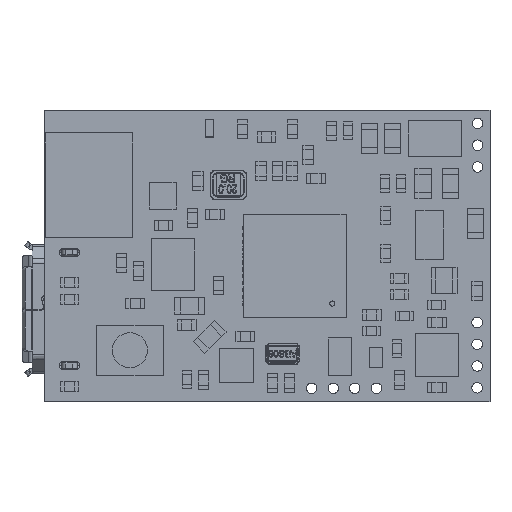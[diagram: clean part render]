
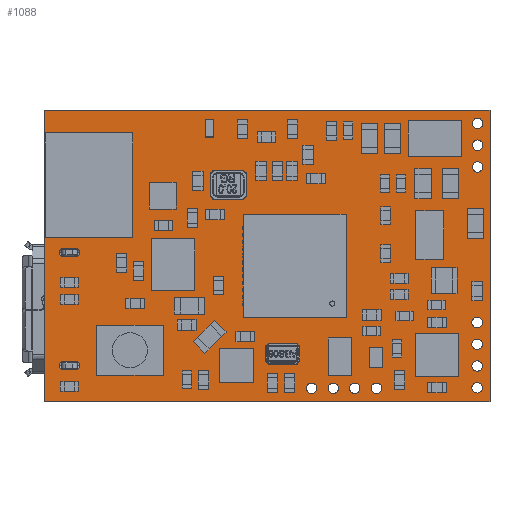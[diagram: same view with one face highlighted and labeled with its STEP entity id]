
A CAD part, top view. The second image highlights one B-rep face of the part: STEP entity #1088.
In plain terms, the highlighted planar face has unit normal (0, 0, 1).
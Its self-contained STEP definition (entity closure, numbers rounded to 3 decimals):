
#295 = VERTEX_POINT('',#296);
#296 = CARTESIAN_POINT('',(0.,0.,0.508));
#302 = EDGE_CURVE('',#295,#303,#305,.T.);
#303 = VERTEX_POINT('',#304);
#304 = CARTESIAN_POINT('',(26.,0.,0.508));
#305 = LINE('',#306,#307);
#306 = CARTESIAN_POINT('',(0.,0.,0.508));
#307 = VECTOR('',#308,1.);
#308 = DIRECTION('',(1.,0.,0.));
#333 = EDGE_CURVE('',#303,#334,#336,.T.);
#334 = VERTEX_POINT('',#335);
#335 = CARTESIAN_POINT('',(26.,17.,0.508));
#336 = LINE('',#337,#338);
#337 = CARTESIAN_POINT('',(26.,0.,0.508));
#338 = VECTOR('',#339,1.);
#339 = DIRECTION('',(0.,1.,0.));
#364 = EDGE_CURVE('',#334,#365,#367,.T.);
#365 = VERTEX_POINT('',#366);
#366 = CARTESIAN_POINT('',(0.,17.,0.508));
#367 = LINE('',#368,#369);
#368 = CARTESIAN_POINT('',(26.,17.,0.508));
#369 = VECTOR('',#370,1.);
#370 = DIRECTION('',(-1.,0.,0.));
#395 = EDGE_CURVE('',#365,#295,#396,.T.);
#396 = LINE('',#397,#398);
#397 = CARTESIAN_POINT('',(0.,17.,0.508));
#398 = VECTOR('',#399,1.);
#399 = DIRECTION('',(0.,-1.,0.));
#419 = VERTEX_POINT('',#420);
#420 = CARTESIAN_POINT('',(15.9,0.787,0.508));
#426 = EDGE_CURVE('',#419,#419,#427,.T.);
#427 = CIRCLE('',#428,0.305);
#428 = AXIS2_PLACEMENT_3D('',#429,#430,#431);
#429 = CARTESIAN_POINT('',(15.596,0.787,0.508));
#430 = DIRECTION('',(0.,0.,1.));
#431 = DIRECTION('',(1.,0.,0.));
#452 = VERTEX_POINT('',#453);
#453 = CARTESIAN_POINT('',(18.415,0.787,0.508));
#459 = EDGE_CURVE('',#452,#452,#460,.T.);
#460 = CIRCLE('',#461,0.305);
#461 = AXIS2_PLACEMENT_3D('',#462,#463,#464);
#462 = CARTESIAN_POINT('',(18.11,0.787,0.508));
#463 = DIRECTION('',(0.,0.,1.));
#464 = DIRECTION('',(1.,0.,0.));
#485 = VERTEX_POINT('',#486);
#486 = CARTESIAN_POINT('',(17.17,0.787,0.508));
#492 = EDGE_CURVE('',#485,#485,#493,.T.);
#493 = CIRCLE('',#494,0.305);
#494 = AXIS2_PLACEMENT_3D('',#495,#496,#497);
#495 = CARTESIAN_POINT('',(16.866,0.787,0.508));
#496 = DIRECTION('',(0.,0.,1.));
#497 = DIRECTION('',(1.,0.,0.));
#518 = VERTEX_POINT('',#519);
#519 = CARTESIAN_POINT('',(1.123,8.462,0.508));
#525 = EDGE_CURVE('',#518,#526,#528,.T.);
#526 = VERTEX_POINT('',#527);
#527 = CARTESIAN_POINT('',(1.823,8.462,0.508));
#528 = LINE('',#529,#530);
#529 = CARTESIAN_POINT('',(1.123,8.462,0.508));
#530 = VECTOR('',#531,1.);
#531 = DIRECTION('',(1.,0.,0.));
#556 = EDGE_CURVE('',#526,#557,#559,.T.);
#557 = VERTEX_POINT('',#558);
#558 = CARTESIAN_POINT('',(1.823,8.962,0.508));
#559 = CIRCLE('',#560,0.25);
#560 = AXIS2_PLACEMENT_3D('',#561,#562,#563);
#561 = CARTESIAN_POINT('',(1.823,8.712,0.508));
#562 = DIRECTION('',(0.,0.,1.));
#563 = DIRECTION('',(0.,-1.,0.));
#589 = EDGE_CURVE('',#557,#590,#592,.T.);
#590 = VERTEX_POINT('',#591);
#591 = CARTESIAN_POINT('',(1.123,8.962,0.508));
#592 = LINE('',#593,#594);
#593 = CARTESIAN_POINT('',(1.823,8.962,0.508));
#594 = VECTOR('',#595,1.);
#595 = DIRECTION('',(-1.,0.,0.));
#620 = EDGE_CURVE('',#590,#518,#621,.T.);
#621 = CIRCLE('',#622,0.25);
#622 = AXIS2_PLACEMENT_3D('',#623,#624,#625);
#623 = CARTESIAN_POINT('',(1.123,8.712,0.508));
#624 = DIRECTION('',(0.,0.,1.));
#625 = DIRECTION('',(0.,1.,0.));
#646 = VERTEX_POINT('',#647);
#647 = CARTESIAN_POINT('',(19.685,0.787,0.508));
#653 = EDGE_CURVE('',#646,#646,#654,.T.);
#654 = CIRCLE('',#655,0.305);
#655 = AXIS2_PLACEMENT_3D('',#656,#657,#658);
#656 = CARTESIAN_POINT('',(19.38,0.787,0.508));
#657 = DIRECTION('',(0.,0.,1.));
#658 = DIRECTION('',(1.,0.,0.));
#679 = VERTEX_POINT('',#680);
#680 = CARTESIAN_POINT('',(1.123,1.86,0.508));
#686 = EDGE_CURVE('',#679,#687,#689,.T.);
#687 = VERTEX_POINT('',#688);
#688 = CARTESIAN_POINT('',(1.823,1.86,0.508));
#689 = LINE('',#690,#691);
#690 = CARTESIAN_POINT('',(1.123,1.86,0.508));
#691 = VECTOR('',#692,1.);
#692 = DIRECTION('',(1.,0.,0.));
#717 = EDGE_CURVE('',#687,#718,#720,.T.);
#718 = VERTEX_POINT('',#719);
#719 = CARTESIAN_POINT('',(1.823,2.36,0.508));
#720 = CIRCLE('',#721,0.25);
#721 = AXIS2_PLACEMENT_3D('',#722,#723,#724);
#722 = CARTESIAN_POINT('',(1.823,2.11,0.508));
#723 = DIRECTION('',(0.,0.,1.));
#724 = DIRECTION('',(0.,-1.,0.));
#750 = EDGE_CURVE('',#718,#751,#753,.T.);
#751 = VERTEX_POINT('',#752);
#752 = CARTESIAN_POINT('',(1.123,2.36,0.508));
#753 = LINE('',#754,#755);
#754 = CARTESIAN_POINT('',(1.823,2.36,0.508));
#755 = VECTOR('',#756,1.);
#756 = DIRECTION('',(-1.,0.,0.));
#781 = EDGE_CURVE('',#751,#679,#782,.T.);
#782 = CIRCLE('',#783,0.25);
#783 = AXIS2_PLACEMENT_3D('',#784,#785,#786);
#784 = CARTESIAN_POINT('',(1.123,2.11,0.508));
#785 = DIRECTION('',(0.,0.,1.));
#786 = DIRECTION('',(0.,1.,0.));
#807 = VERTEX_POINT('',#808);
#808 = CARTESIAN_POINT('',(25.553,3.353,0.508));
#814 = EDGE_CURVE('',#807,#807,#815,.T.);
#815 = CIRCLE('',#816,0.305);
#816 = AXIS2_PLACEMENT_3D('',#817,#818,#819);
#817 = CARTESIAN_POINT('',(25.248,3.353,0.508));
#818 = DIRECTION('',(0.,0.,1.));
#819 = DIRECTION('',(1.,0.,0.));
#840 = VERTEX_POINT('',#841);
#841 = CARTESIAN_POINT('',(25.554,0.813,0.508));
#847 = EDGE_CURVE('',#840,#840,#848,.T.);
#848 = CIRCLE('',#849,0.305);
#849 = AXIS2_PLACEMENT_3D('',#850,#851,#852);
#850 = CARTESIAN_POINT('',(25.249,0.813,0.508));
#851 = DIRECTION('',(0.,0.,1.));
#852 = DIRECTION('',(1.,0.,0.));
#873 = VERTEX_POINT('',#874);
#874 = CARTESIAN_POINT('',(25.554,2.083,0.508));
#880 = EDGE_CURVE('',#873,#873,#881,.T.);
#881 = CIRCLE('',#882,0.305);
#882 = AXIS2_PLACEMENT_3D('',#883,#884,#885);
#883 = CARTESIAN_POINT('',(25.249,2.083,0.508));
#884 = DIRECTION('',(0.,0.,1.));
#885 = DIRECTION('',(1.,0.,0.));
#906 = VERTEX_POINT('',#907);
#907 = CARTESIAN_POINT('',(25.553,4.623,0.508));
#913 = EDGE_CURVE('',#906,#906,#914,.T.);
#914 = CIRCLE('',#915,0.305);
#915 = AXIS2_PLACEMENT_3D('',#916,#917,#918);
#916 = CARTESIAN_POINT('',(25.248,4.623,0.508));
#917 = DIRECTION('',(0.,0.,1.));
#918 = DIRECTION('',(1.,0.,0.));
#939 = VERTEX_POINT('',#940);
#940 = CARTESIAN_POINT('',(25.578,16.231,0.508));
#946 = EDGE_CURVE('',#939,#939,#947,.T.);
#947 = CIRCLE('',#948,0.305);
#948 = AXIS2_PLACEMENT_3D('',#949,#950,#951);
#949 = CARTESIAN_POINT('',(25.273,16.231,0.508));
#950 = DIRECTION('',(0.,0.,1.));
#951 = DIRECTION('',(1.,0.,0.));
#972 = VERTEX_POINT('',#973);
#973 = CARTESIAN_POINT('',(25.578,13.691,0.508));
#979 = EDGE_CURVE('',#972,#972,#980,.T.);
#980 = CIRCLE('',#981,0.305);
#981 = AXIS2_PLACEMENT_3D('',#982,#983,#984);
#982 = CARTESIAN_POINT('',(25.273,13.691,0.508));
#983 = DIRECTION('',(0.,0.,1.));
#984 = DIRECTION('',(1.,0.,0.));
#1005 = VERTEX_POINT('',#1006);
#1006 = CARTESIAN_POINT('',(25.578,14.961,0.508));
#1012 = EDGE_CURVE('',#1005,#1005,#1013,.T.);
#1013 = CIRCLE('',#1014,0.305);
#1014 = AXIS2_PLACEMENT_3D('',#1015,#1016,#1017);
#1015 = CARTESIAN_POINT('',(25.273,14.961,0.508));
#1016 = DIRECTION('',(0.,0.,1.));
#1017 = DIRECTION('',(1.,0.,0.));
#1088 = ADVANCED_FACE('',(#1089,#1095,#1098,#1101,#1104,#1110,#1113,
    #1119,#1122,#1125,#1128,#1131,#1134,#1137),#1140,.F.);
#1089 = FACE_BOUND('',#1090,.T.);
#1090 = EDGE_LOOP('',(#1091,#1092,#1093,#1094));
#1091 = ORIENTED_EDGE('',*,*,#302,.T.);
#1092 = ORIENTED_EDGE('',*,*,#333,.T.);
#1093 = ORIENTED_EDGE('',*,*,#364,.T.);
#1094 = ORIENTED_EDGE('',*,*,#395,.T.);
#1095 = FACE_BOUND('',#1096,.F.);
#1096 = EDGE_LOOP('',(#1097));
#1097 = ORIENTED_EDGE('',*,*,#426,.T.);
#1098 = FACE_BOUND('',#1099,.F.);
#1099 = EDGE_LOOP('',(#1100));
#1100 = ORIENTED_EDGE('',*,*,#459,.T.);
#1101 = FACE_BOUND('',#1102,.F.);
#1102 = EDGE_LOOP('',(#1103));
#1103 = ORIENTED_EDGE('',*,*,#492,.T.);
#1104 = FACE_BOUND('',#1105,.F.);
#1105 = EDGE_LOOP('',(#1106,#1107,#1108,#1109));
#1106 = ORIENTED_EDGE('',*,*,#525,.T.);
#1107 = ORIENTED_EDGE('',*,*,#556,.T.);
#1108 = ORIENTED_EDGE('',*,*,#589,.T.);
#1109 = ORIENTED_EDGE('',*,*,#620,.T.);
#1110 = FACE_BOUND('',#1111,.F.);
#1111 = EDGE_LOOP('',(#1112));
#1112 = ORIENTED_EDGE('',*,*,#653,.T.);
#1113 = FACE_BOUND('',#1114,.F.);
#1114 = EDGE_LOOP('',(#1115,#1116,#1117,#1118));
#1115 = ORIENTED_EDGE('',*,*,#686,.T.);
#1116 = ORIENTED_EDGE('',*,*,#717,.T.);
#1117 = ORIENTED_EDGE('',*,*,#750,.T.);
#1118 = ORIENTED_EDGE('',*,*,#781,.T.);
#1119 = FACE_BOUND('',#1120,.F.);
#1120 = EDGE_LOOP('',(#1121));
#1121 = ORIENTED_EDGE('',*,*,#814,.T.);
#1122 = FACE_BOUND('',#1123,.F.);
#1123 = EDGE_LOOP('',(#1124));
#1124 = ORIENTED_EDGE('',*,*,#847,.T.);
#1125 = FACE_BOUND('',#1126,.F.);
#1126 = EDGE_LOOP('',(#1127));
#1127 = ORIENTED_EDGE('',*,*,#880,.T.);
#1128 = FACE_BOUND('',#1129,.F.);
#1129 = EDGE_LOOP('',(#1130));
#1130 = ORIENTED_EDGE('',*,*,#913,.T.);
#1131 = FACE_BOUND('',#1132,.F.);
#1132 = EDGE_LOOP('',(#1133));
#1133 = ORIENTED_EDGE('',*,*,#946,.T.);
#1134 = FACE_BOUND('',#1135,.F.);
#1135 = EDGE_LOOP('',(#1136));
#1136 = ORIENTED_EDGE('',*,*,#979,.T.);
#1137 = FACE_BOUND('',#1138,.F.);
#1138 = EDGE_LOOP('',(#1139));
#1139 = ORIENTED_EDGE('',*,*,#1012,.T.);
#1140 = PLANE('',#1141);
#1141 = AXIS2_PLACEMENT_3D('',#1142,#1143,#1144);
#1142 = CARTESIAN_POINT('',(0.,0.,0.508));
#1143 = DIRECTION('',(0.,0.,-1.));
#1144 = DIRECTION('',(-1.,0.,0.));
